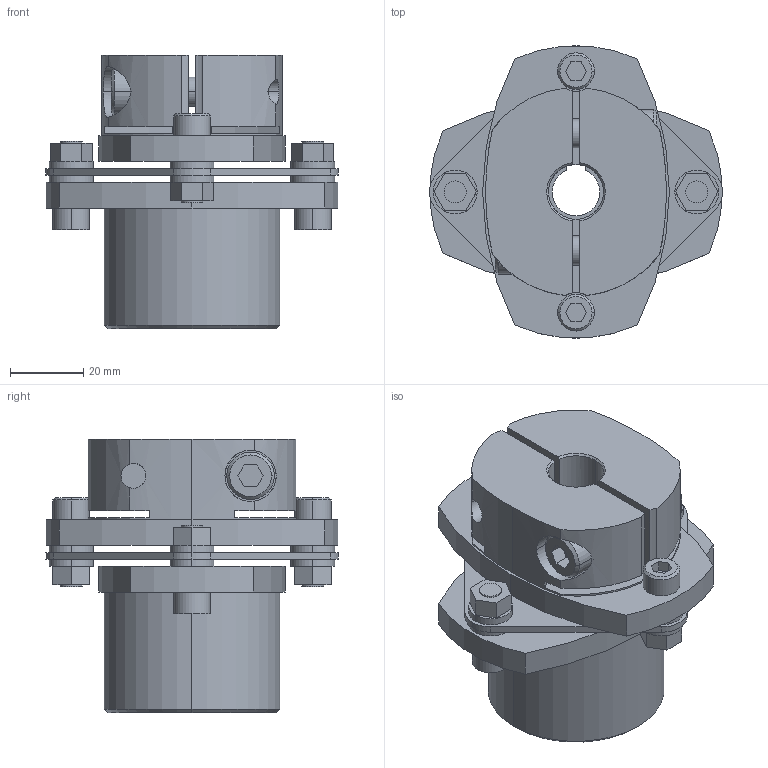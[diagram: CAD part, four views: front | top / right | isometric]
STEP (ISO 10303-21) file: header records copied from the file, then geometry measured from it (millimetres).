
FILE_DESCRIPTION((''),'2;1');
FILE_NAME('LCS-80M-16L亊15B.stp','2015-10-27T19:13:38',(''),(''),'AutoCAD STEP 2000i','AutoCAD 2000i',', , ');
FILE_SCHEMA(('CONFIG_CONTROL_DESIGN'));
Length unit declared in the file: millimetre
Products named in the file (6): LCS-80M-16L×15B; 忣兜1; LC80M-L016; LC80-B015-1; LC80-B015; LCS80-ITA
Assembly tree (5 placements, depth 2):
  LCS-80M-16L×15B
    忣兜1
    LC80M-L016
    LC80-B015-1
    LC80-B015
    LCS80-ITA
Bounding box: 80 x 79.95 x 74.75 mm (x, y, z)
Volume: 147384.9 mm3; surface area: 42170.9 mm2
Topology: 1 solids, 1 shells, 230 faces, 580 edges, 382 vertices
Faces by surface type: plane 115, cylinder 96, cone 19
Entity records: 7413 total; most frequent: CARTESIAN_POINT 1514, DIRECTION 1252, ORIENTED_EDGE 1160, EDGE_CURVE 580, AXIS2_PLACEMENT_3D 458, VERTEX_POINT 382, VECTOR 336, LINE 336
